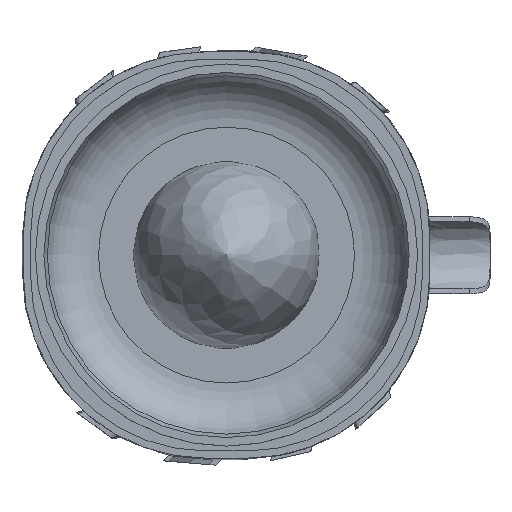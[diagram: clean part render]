
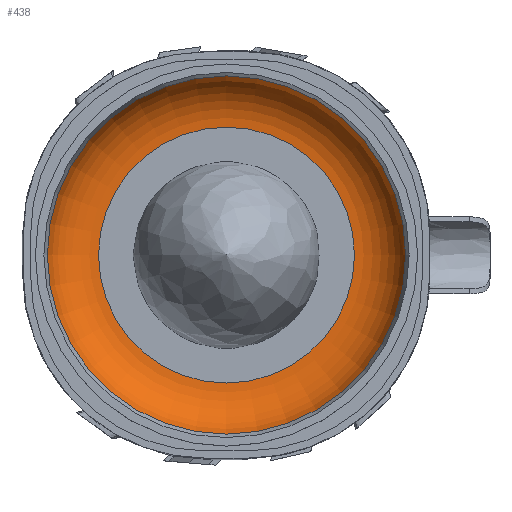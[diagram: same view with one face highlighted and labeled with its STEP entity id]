
A CAD part, top view. The second image highlights one B-rep face of the part: STEP entity #438.
In plain terms, the highlighted toroidal (fillet/blend) face has major radius 52.905 mm and minor radius 22 mm.
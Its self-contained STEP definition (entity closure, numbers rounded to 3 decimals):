
#33=TOROIDAL_SURFACE('',#3822,52.905,22.);
#77=FACE_BOUND('',#985,.T.);
#78=FACE_BOUND('',#986,.T.);
#93=CIRCLE('',#3818,52.905);
#94=CIRCLE('',#3820,74.059);
#438=ADVANCED_FACE('',(#77,#78),#33,.F.);
#985=EDGE_LOOP('',(#2211));
#986=EDGE_LOOP('',(#2212));
#2211=ORIENTED_EDGE('',*,*,#3266,.F.);
#2212=ORIENTED_EDGE('',*,*,#3265,.F.);
#2805=VERTEX_POINT('',#7002);
#2806=VERTEX_POINT('',#7005);
#3265=EDGE_CURVE('',#2805,#2805,#93,.T.);
#3266=EDGE_CURVE('',#2806,#2806,#94,.T.);
#3818=AXIS2_PLACEMENT_3D('',#7001,#4310,#4311);
#3820=AXIS2_PLACEMENT_3D('',#7004,#4314,#4315);
#3822=AXIS2_PLACEMENT_3D('',#7007,#4318,#4319);
#4310=DIRECTION('',(0.,0.,1.));
#4311=DIRECTION('',(1.,0.,0.));
#4314=DIRECTION('',(0.,0.,-1.));
#4315=DIRECTION('',(-1.,0.,0.));
#4318=DIRECTION('',(0.,0.,1.));
#4319=DIRECTION('',(1.,0.,0.));
#7001=CARTESIAN_POINT('',(0.,0.,182.));
#7002=CARTESIAN_POINT('',(52.905,0.,182.));
#7004=CARTESIAN_POINT('',(0.,0.,197.956));
#7005=CARTESIAN_POINT('',(-74.059,0.,197.956));
#7007=CARTESIAN_POINT('',(0.,0.,204.));
